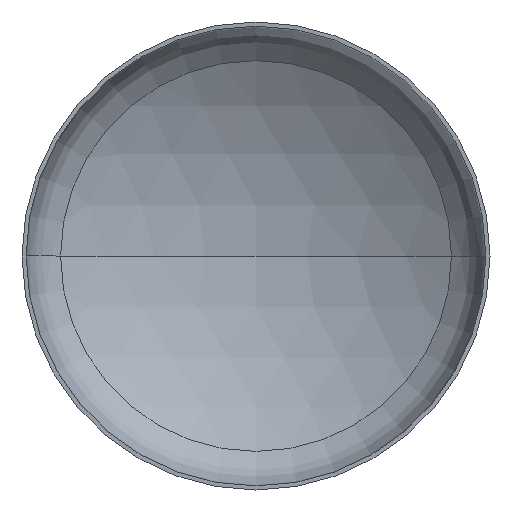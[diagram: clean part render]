
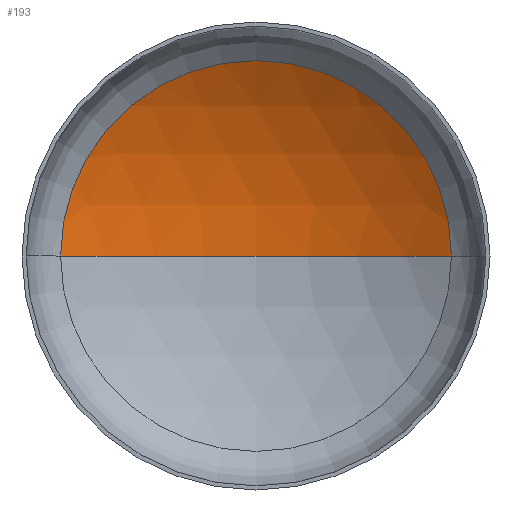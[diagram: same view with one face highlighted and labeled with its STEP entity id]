
A CAD part, front view. The second image highlights one B-rep face of the part: STEP entity #193.
In plain terms, the highlighted spherical face has radius 4000 mm.
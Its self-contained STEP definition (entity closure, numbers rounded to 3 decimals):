
#14 = EDGE_LOOP ( 'NONE', ( #86, #76, #28 ) ) ;
#20 = CARTESIAN_POINT ( 'NONE',  ( 0., 796.777, 0. ) ) ;
#25 = VERTEX_POINT ( 'NONE', #267 ) ;
#28 = ORIENTED_EDGE ( 'NONE', *, *, #224, .T. ) ;
#69 = VERTEX_POINT ( 'NONE', #306 ) ;
#76 = ORIENTED_EDGE ( 'NONE', *, *, #226, .T. ) ;
#83 = CIRCLE ( 'NONE', #109, 4000. ) ;
#86 = ORIENTED_EDGE ( 'NONE', *, *, #229, .F. ) ;
#109 = AXIS2_PLACEMENT_3D ( 'NONE', #209, #217, #271 ) ;
#111 = VERTEX_POINT ( 'NONE', #260 ) ;
#122 = AXIS2_PLACEMENT_3D ( 'NONE', #266, #178, #198 ) ;
#134 = AXIS2_PLACEMENT_3D ( 'NONE', #20, #291, #239 ) ;
#178 = DIRECTION ( 'NONE',  ( 0., 0., -1. ) ) ;
#192 = AXIS2_PLACEMENT_3D ( 'NONE', #201, #334, #355 ) ;
#193 = ADVANCED_FACE ( 'NONE', ( #405 ), #409, .F. ) ;
#198 = DIRECTION ( 'NONE',  ( -1., 0., 0. ) ) ;
#201 = CARTESIAN_POINT ( 'NONE',  ( 0., -2615.051, 0. ) ) ;
#209 = CARTESIAN_POINT ( 'NONE',  ( 0., -2615.051, 0. ) ) ;
#217 = DIRECTION ( 'NONE',  ( 0., 0., 1. ) ) ;
#224 = EDGE_CURVE ( 'NONE', #25, #69, #277, .T. ) ;
#226 = EDGE_CURVE ( 'NONE', #111, #25, #394, .T. ) ;
#229 = EDGE_CURVE ( 'NONE', #111, #69, #83, .T. ) ;
#239 = DIRECTION ( 'NONE',  ( 1., 0., 0. ) ) ;
#260 = CARTESIAN_POINT ( 'NONE',  ( 0., 1384.949, 0. ) ) ;
#266 = CARTESIAN_POINT ( 'NONE',  ( 0., -2615.051, 0. ) ) ;
#267 = CARTESIAN_POINT ( 'NONE',  ( 2087.926, 796.777, 0. ) ) ;
#271 = DIRECTION ( 'NONE',  ( 1., 0., 0. ) ) ;
#277 = CIRCLE ( 'NONE', #134, 2087.926 ) ;
#291 = DIRECTION ( 'NONE',  ( 0., -1., 0. ) ) ;
#306 = CARTESIAN_POINT ( 'NONE',  ( -2087.926, 796.777, 0. ) ) ;
#334 = DIRECTION ( 'NONE',  ( 0., 0., -1. ) ) ;
#355 = DIRECTION ( 'NONE',  ( -1., 0., 0. ) ) ;
#394 = CIRCLE ( 'NONE', #122, 4000. ) ;
#405 = FACE_OUTER_BOUND ( 'NONE', #14, .T. ) ;
#409 = SPHERICAL_SURFACE ( 'NONE', #192, 4000. ) ;
